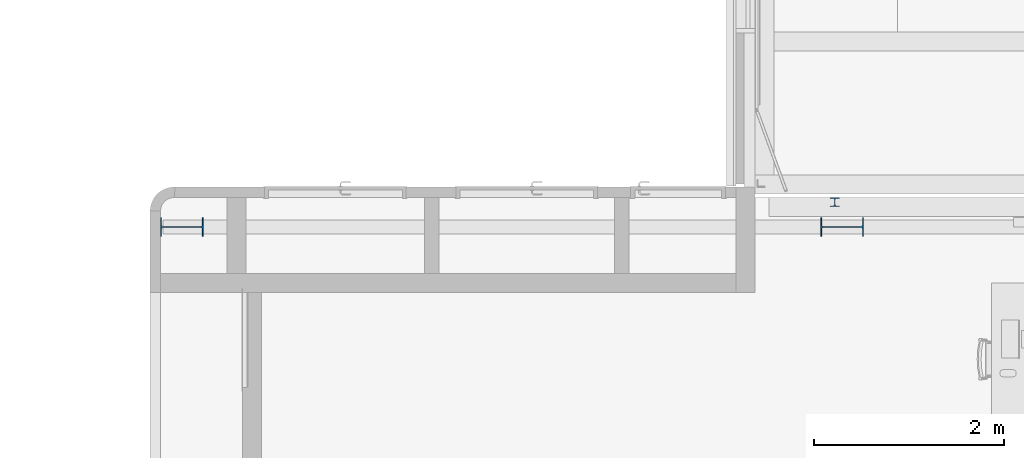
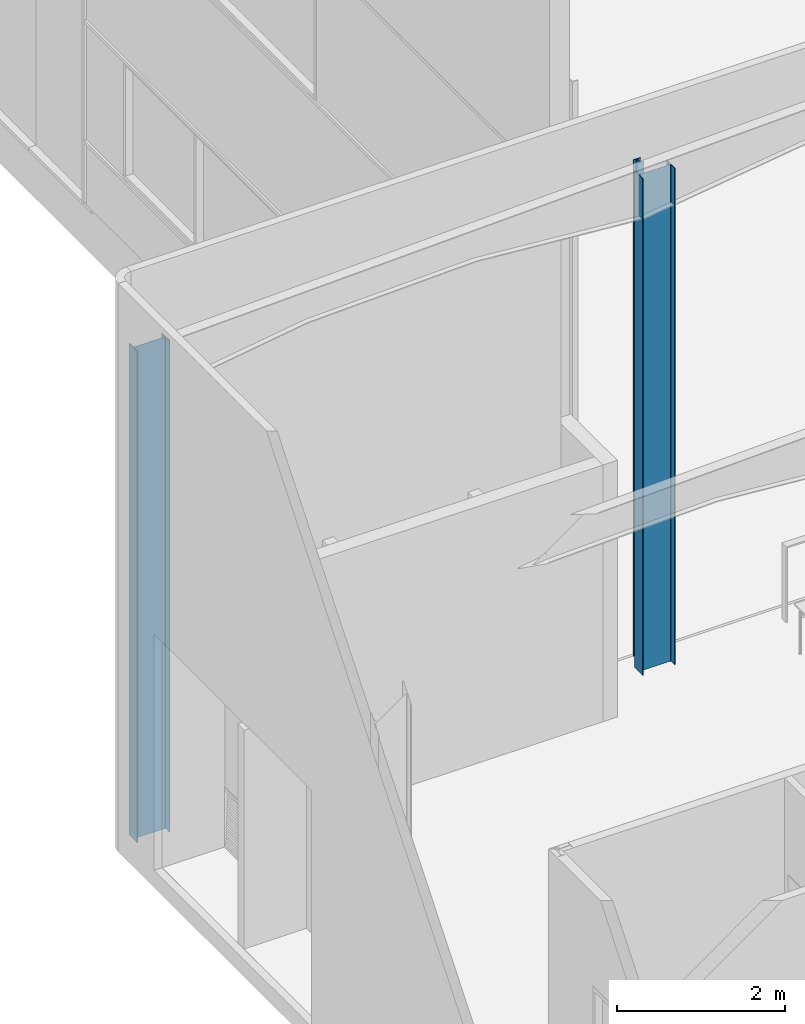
# One storey, part 8 of 137: 3 columns.
"""IFC2X3 building model written with IfcOpenShell, lengths in centimetres."""

from ifc_helpers import new_model, entity, si_unit, converted_unit, derived_unit, direction, frame, frame_2d, origin, place, context, subcontext, project, spatial, polyline, circle_curve, parameter, trimmed, segment, composite_curve, outline, extrude, source, transform, mapped, material, type_object, type_shapes, element, save


model = new_model("IFC2X3")

# Units and contexts
model_context = context("Model", 3, precision=0.001, world=origin(), true_north=direction((6.12303176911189e-17, 1.0)))
body_context = subcontext(model_context, "Body", "Model", "MODEL_VIEW")
ifc_project = project(units=[si_unit("LENGTHUNIT", "METRE", prefix="CENTI"), si_unit("AREAUNIT", "SQUARE_METRE"), si_unit("VOLUMEUNIT", "CUBIC_METRE"), converted_unit("PLANEANGLEUNIT", "DEGREE", entity("IfcRatioMeasure", 0.0174532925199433), si_unit("PLANEANGLEUNIT", "RADIAN"), dimensions=[0, 0, 0, 0, 0, 0, 0]), si_unit("MASSUNIT", "GRAM", prefix="KILO"), si_unit("TIMEUNIT", "SECOND"), si_unit("FREQUENCYUNIT", "HERTZ"), si_unit("THERMODYNAMICTEMPERATUREUNIT", "DEGREE_CELSIUS"), derived_unit("THERMALTRANSMITTANCEUNIT", [(si_unit("MASSUNIT", "GRAM", prefix="KILO"), 1), (si_unit("THERMODYNAMICTEMPERATUREUNIT", "KELVIN"), -1), (si_unit("TIMEUNIT", "SECOND"), -3)]), derived_unit("VOLUMETRICFLOWRATEUNIT", [(si_unit("LENGTHUNIT", "METRE"), 3), (si_unit("TIMEUNIT", "SECOND"), -1)]), si_unit("ELECTRICCURRENTUNIT", "AMPERE"), si_unit("ELECTRICVOLTAGEUNIT", "VOLT"), si_unit("POWERUNIT", "WATT"), si_unit("FORCEUNIT", "NEWTON", prefix="KILO"), si_unit("ILLUMINANCEUNIT", "LUX"), si_unit("LUMINOUSFLUXUNIT", "LUMEN"), si_unit("LUMINOUSINTENSITYUNIT", "CANDELA"), derived_unit("USERDEFINED", [(si_unit("MASSUNIT", "GRAM", prefix="KILO"), -1), (si_unit("LENGTHUNIT", "METRE"), -2), (si_unit("TIMEUNIT", "SECOND"), 3), (si_unit("LUMINOUSFLUXUNIT", "LUMEN"), 1)]), derived_unit("LINEARVELOCITYUNIT", [(si_unit("LENGTHUNIT", "METRE"), 1), (si_unit("TIMEUNIT", "SECOND"), -1)]), si_unit("PRESSUREUNIT", "PASCAL"), derived_unit("USERDEFINED", [(si_unit("LENGTHUNIT", "METRE"), -2), (si_unit("MASSUNIT", "GRAM", prefix="KILO"), 1), (si_unit("TIMEUNIT", "SECOND"), -2)])], contexts=[model_context])

# Site, building, storey
site_placement = place(None, frame((8.62739174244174, -249.285249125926, 0.0)))
site = spatial("IfcSite", under=ifc_project, at=site_placement, Name="Default", CompositionType="ELEMENT")
building_placement = place(site_placement, origin())
building = spatial("IfcBuilding", under=site, at=building_placement, CompositionType="ELEMENT")
storey_placement = place(building_placement, origin())
storey = spatial("IfcBuildingStorey", under=building, at=storey_placement, Name="RDC", CompositionType="ELEMENT", Elevation=-8.82465566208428e-11)

# Columns
ifc_material = material(Name="Acier, 45-345")
column_type_1 = type_object("IfcColumnType", Name="IPE 450", PredefinedType="COLUMN", material=ifc_material)
shared_shape_1 = source(origin(), body_context, "Body", "SweptSolid", [
    extrude(outline(composite_curve([segment(polyline([(21.6, -9.5), (22.5, -9.5)]), True, "CONTINUOUS"), segment(polyline([(22.5, -9.5), (22.5, 9.5)]), True, "CONTINUOUS"), segment(polyline([(22.5, 9.5), (21.6, 9.5)]), True, "CONTINUOUS"), segment(polyline([(21.6, 9.5), (21.6, 1.79999999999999)]), True, "CONTINUOUS"), segment(trimmed(circle_curve(frame_2d((20.1, 1.79999999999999), x_axis=(1.0, 0.0)), 1.49999999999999), [parameter(269.999999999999)], [parameter(0.0)], True, "PARAMETER"), False, "CONTINUOUS"), segment(polyline([(20.1, 0.3), (-20.1, 0.3)]), True, "CONTINUOUS"), segment(trimmed(circle_curve(frame_2d((-20.1, 1.8), x_axis=(0.0, -1.0)), 1.5), [parameter(270.0)], [parameter(0.0)], True, "PARAMETER"), False, "CONTINUOUS"), segment(polyline([(-21.6, 1.8), (-21.6, 9.5)]), True, "CONTINUOUS"), segment(polyline([(-21.6, 9.5), (-22.5, 9.5)]), True, "CONTINUOUS"), segment(polyline([(-22.5, 9.5), (-22.5, -9.5)]), True, "CONTINUOUS"), segment(polyline([(-22.5, -9.5), (-21.6, -9.5)]), True, "CONTINUOUS"), segment(polyline([(-21.6, -9.5), (-21.6, -1.8)]), True, "CONTINUOUS"), segment(trimmed(circle_curve(frame_2d((-20.1, -1.8), x_axis=(-1.0, 0.0)), 1.5), [parameter(269.999999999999)], [parameter(0.0)], True, "PARAMETER"), False, "CONTINUOUS"), segment(polyline([(-20.1, -0.299999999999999), (20.1, -0.299999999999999)]), True, "CONTINUOUS"), segment(trimmed(circle_curve(frame_2d((20.1, -1.80000000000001), x_axis=(0.0, 1.0)), 1.50000000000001), [parameter(270.0)], [parameter(0.0)], True, "PARAMETER"), False, "CONTINUOUS"), segment(polyline([(21.6, -1.8), (21.6, -9.5)]), True, "CONTINUOUS")], self_intersect=False)), frame((0.0, 0.0, 0.0), z_axis=(0.0, 0.0, 1.0), x_axis=(0.0, -1.0, 0.0)), (0.0, 0.0, 1.0), 722.0),
])
type_shapes(column_type_1, [shared_shape_1])
column_1_placement = place(storey_placement, frame((1568.40482780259, 3511.98020806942, 0.0), z_axis=(0.0, 0.0, 1.0), x_axis=(0.0, -1.0, 0.0)))
element("IfcColumn", 1, at=column_1_placement, inside=storey, type_object=column_type_1, material=ifc_material, Name="IPE-450-190:IPE 450", ObjectType="IPE 450", context=body_context, shape_type="MappedRepresentation", body=[
    mapped(shared_shape_1, transform((0.0, 0.0, 0.0), scale=1.0)),
])
column_type_2 = type_object("IfcColumnType", Name="IPE 450", PredefinedType="COLUMN", material=ifc_material)
shared_shape_2 = source(origin(), body_context, "Body", "SweptSolid", [
    extrude(outline(composite_curve([segment(polyline([(3.9, -5.0), (4.8, -5.0)]), True, "CONTINUOUS"), segment(polyline([(4.8, -5.0), (4.8, 5.0)]), True, "CONTINUOUS"), segment(polyline([(4.8, 5.0), (3.9, 5.0)]), True, "CONTINUOUS"), segment(polyline([(3.9, 5.0), (3.9, 1.79999999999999)]), True, "CONTINUOUS"), segment(trimmed(circle_curve(frame_2d((2.4, 1.8), x_axis=(1.0, 0.0)), 1.5), [parameter(270.0)], [parameter(0.0)], True, "PARAMETER"), False, "CONTINUOUS"), segment(polyline([(2.4, 0.300000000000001), (-2.4, 0.300000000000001)]), True, "CONTINUOUS"), segment(trimmed(circle_curve(frame_2d((-2.4, 1.8), x_axis=(0.0, -1.0)), 1.5), [parameter(270.0)], [parameter(0.0)], True, "PARAMETER"), False, "CONTINUOUS"), segment(polyline([(-3.9, 1.8), (-3.9, 5.0)]), True, "CONTINUOUS"), segment(polyline([(-3.9, 5.0), (-4.8, 5.0)]), True, "CONTINUOUS"), segment(polyline([(-4.8, 5.0), (-4.8, -5.0)]), True, "CONTINUOUS"), segment(polyline([(-4.8, -5.0), (-3.9, -5.0)]), True, "CONTINUOUS"), segment(polyline([(-3.9, -5.0), (-3.9, -1.8)]), True, "CONTINUOUS"), segment(trimmed(circle_curve(frame_2d((-2.4, -1.8), x_axis=(-1.0, 0.0)), 1.5), [parameter(270.0)], [parameter(0.0)], True, "PARAMETER"), False, "CONTINUOUS"), segment(polyline([(-2.4, -0.3), (2.4, -0.3)]), True, "CONTINUOUS"), segment(trimmed(circle_curve(frame_2d((2.4, -1.8), x_axis=(0.0, 1.0)), 1.5), [parameter(270.0)], [parameter(0.0)], True, "PARAMETER"), False, "CONTINUOUS"), segment(polyline([(3.9, -1.8), (3.9, -5.0)]), True, "CONTINUOUS")], self_intersect=False)), frame((0.0, 0.0, 0.0), z_axis=(0.0, 0.0, 1.0), x_axis=(0.0, -1.0, 0.0)), (0.0, 0.0, 1.0), 722.0),
])
type_shapes(column_type_2, [shared_shape_2])
column_2_placement = place(storey_placement, frame((1560.90000000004, 3538.18020494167, 0.0)))
element("IfcColumn", 2, at=column_2_placement, inside=storey, type_object=column_type_2, material=ifc_material, Name="IPE-96-100:IPE 450", ObjectType="IPE 450", context=body_context, shape_type="MappedRepresentation", body=[
    mapped(shared_shape_2, transform((0.0, 0.0, 0.0), scale=1.0)),
])
column_type_3 = type_object("IfcColumnType", Name="IPE 450", PredefinedType="COLUMN", material=ifc_material)
shared_shape_3 = source(origin(), body_context, "Body", "SweptSolid", [
    extrude(outline(composite_curve([segment(polyline([(21.6, -9.5), (22.5, -9.5)]), True, "CONTINUOUS"), segment(polyline([(22.5, -9.5), (22.5, 9.5)]), True, "CONTINUOUS"), segment(polyline([(22.5, 9.5), (21.6, 9.5)]), True, "CONTINUOUS"), segment(polyline([(21.6, 9.5), (21.6, 1.79999999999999)]), True, "CONTINUOUS"), segment(trimmed(circle_curve(frame_2d((20.1, 1.79999999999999), x_axis=(1.0, 0.0)), 1.49999999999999), [parameter(269.999999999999)], [parameter(0.0)], True, "PARAMETER"), False, "CONTINUOUS"), segment(polyline([(20.1, 0.3), (-20.1, 0.3)]), True, "CONTINUOUS"), segment(trimmed(circle_curve(frame_2d((-20.1, 1.8), x_axis=(0.0, -1.0)), 1.5), [parameter(270.0)], [parameter(0.0)], True, "PARAMETER"), False, "CONTINUOUS"), segment(polyline([(-21.6, 1.8), (-21.6, 9.5)]), True, "CONTINUOUS"), segment(polyline([(-21.6, 9.5), (-22.5, 9.5)]), True, "CONTINUOUS"), segment(polyline([(-22.5, 9.5), (-22.5, -9.5)]), True, "CONTINUOUS"), segment(polyline([(-22.5, -9.5), (-21.6, -9.5)]), True, "CONTINUOUS"), segment(polyline([(-21.6, -9.5), (-21.6, -1.8)]), True, "CONTINUOUS"), segment(trimmed(circle_curve(frame_2d((-20.1, -1.8), x_axis=(-1.0, 0.0)), 1.5), [parameter(269.999999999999)], [parameter(0.0)], True, "PARAMETER"), False, "CONTINUOUS"), segment(polyline([(-20.1, -0.299999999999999), (20.1, -0.299999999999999)]), True, "CONTINUOUS"), segment(trimmed(circle_curve(frame_2d((20.1, -1.80000000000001), x_axis=(0.0, 1.0)), 1.50000000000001), [parameter(270.0)], [parameter(0.0)], True, "PARAMETER"), False, "CONTINUOUS"), segment(polyline([(21.6, -1.8), (21.6, -9.5)]), True, "CONTINUOUS")], self_intersect=False)), frame((0.0, 0.0, 0.0), z_axis=(0.0, 0.0, 1.0), x_axis=(0.0, -1.0, 0.0)), (0.0, 0.0, 1.0), 714.699999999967),
])
type_shapes(column_type_3, [shared_shape_3])
column_3_placement = place(storey_placement, frame((873.404827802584, 3511.98020806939, 0.0), z_axis=(0.0, 0.0, 1.0), x_axis=(0.0, -1.0, 0.0)))
element("IfcColumn", 3, at=column_3_placement, inside=storey, type_object=column_type_3, material=ifc_material, Name="IPE-450-190:IPE 450", ObjectType="IPE 450", context=body_context, shape_type="MappedRepresentation", body=[
    mapped(shared_shape_3, transform((0.0, 0.0, 0.0), scale=1.0)),
])

save(model, "model.ifc")
